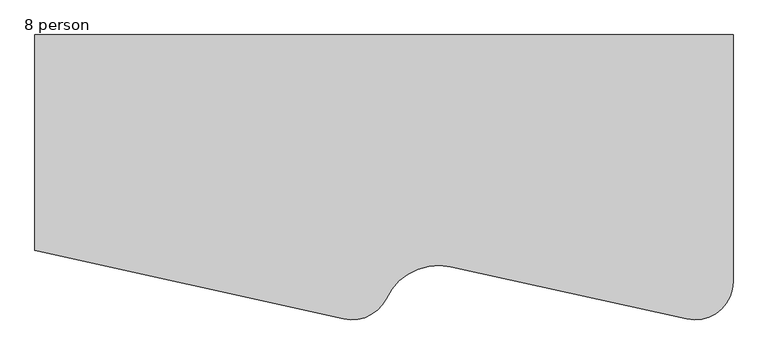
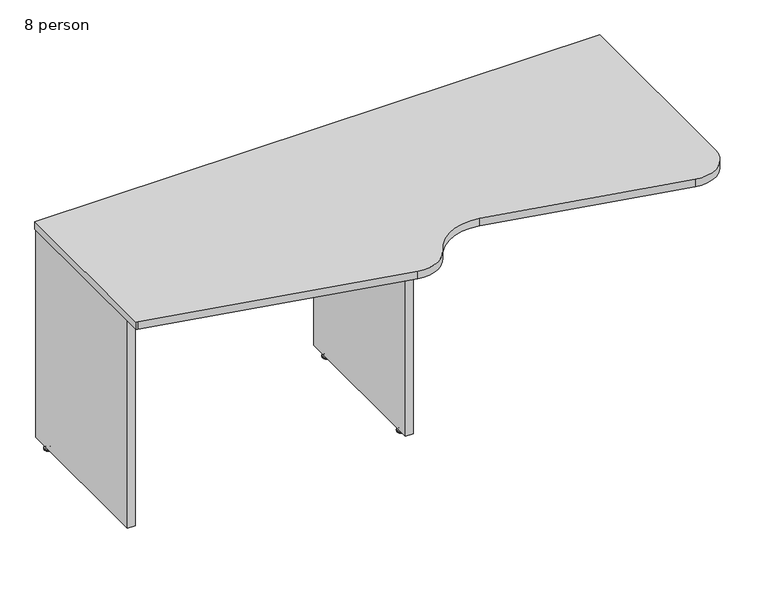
"""IFC4 building model written with IfcOpenShell, lengths in millimetres: furniture geometry, Nova Solutions - Collaboration Table - Keystone_8-11 person : 8 person."""

from ifc_helpers import new_model, si_unit, point, frame, frame_2d, origin, place, context, project, spatial, polyline, circle_curve, ellipse_curve, trimmed, segment, composite_curve, outline, extrude, source, transform, mapped, element, save
from ifc_brep_helpers import plane_surface, cylinder_surface, revolved_surface, advanced_brep


def furniture_8_person_673e4dde(model_context):
    return source(origin(), model_context, "Body", "SolidModel", [
        advanced_brep(
        [(478.2603494, -50.3590625, 11.1125), (484.938, -50.3590625, 11.1125), (491.6156506, -50.3590625, 11.1125), (478.2603494, -50.3590625, 9.525), (491.6156506, -50.3590625, 9.525), (473.0524865, -50.3590625, 4.7748687), (496.8235135, -50.3590625, 4.7748687), (472.1913494, -50.3590625, 3.989419), (497.6846506, -50.3590625, 3.989419), (472.1913494, -50.3590625, 3.175), (497.6846506, -50.3590625, 3.175), (473.0420881, -50.3590625, 0.0), (496.8339119, -50.3590625, 0.0), (484.938, -50.3590625, 0.0)],
        [
            (0, 1),
            (1, 2),
            (2, 0, circle_curve(frame((484.938, -50.3590625, 11.1125), z_axis=(0.0, 0.0, 1.0), x_axis=(1.0, 0.0, 0.0)), 6.6776506)),
            (0, 2, circle_curve(frame((484.938, -50.3590625, 11.1125), z_axis=(0.0, 0.0, 1.0), x_axis=(1.0, 0.0, 0.0)), 6.6776506)),
            (3, 0),
            (2, 4),
            (4, 3, circle_curve(frame((484.938, -50.3590625, 9.525), z_axis=(0.0, 0.0, 1.0), x_axis=(1.0, 0.0, 0.0)), 6.6776506)),
            (3, 4, circle_curve(frame((484.938, -50.3590625, 9.525), z_axis=(0.0, 0.0, 1.0), x_axis=(1.0, 0.0, 0.0)), 6.6776506)),
            (5, 3, circle_curve(frame((472.0059373, -50.3590625, 11.1521822), z_axis=(0.0, -1.0, 0.0), x_axis=(1.0, 0.0, 0.0)), 6.462615)),
            (4, 6, circle_curve(frame((497.8700627, -50.3590625, 11.1521822), z_axis=(0.0, -1.0, 0.0), x_axis=(-1.0, 0.0, 0.0)), 6.462615)),
            (6, 5, circle_curve(frame((484.938, -50.3590625, 4.7748687), z_axis=(0.0, 0.0, 1.0), x_axis=(1.0, 0.0, 0.0)), 11.8855135)),
            (5, 6, circle_curve(frame((484.938, -50.3590625, 4.7748687), z_axis=(0.0, 0.0, 1.0), x_axis=(1.0, 0.0, 0.0)), 11.8855135)),
            (7, 5, circle_curve(frame((473.2255368, -50.3590625, 3.7203591), z_axis=(0.0, 1.0, 0.0), x_axis=(1.0, 0.0, 0.0)), 1.0686145)),
            (6, 8, circle_curve(frame((496.6504632, -50.3590625, 3.7203591), z_axis=(0.0, 1.0, 0.0), x_axis=(-1.0, 0.0, 0.0)), 1.0686145)),
            (8, 7, circle_curve(frame((484.938, -50.3590625, 3.989419), z_axis=(0.0, 0.0, 1.0), x_axis=(1.0, 0.0, 0.0)), 12.7466506)),
            (7, 8, circle_curve(frame((484.938, -50.3590625, 3.989419), z_axis=(0.0, 0.0, 1.0), x_axis=(1.0, 0.0, 0.0)), 12.7466506)),
            (9, 7),
            (8, 10),
            (10, 9, circle_curve(frame((484.938, -50.3590625, 3.175), z_axis=(0.0, 0.0, 1.0), x_axis=(1.0, 0.0, 0.0)), 12.7466506)),
            (9, 10, circle_curve(frame((484.938, -50.3590625, 3.175), z_axis=(0.0, 0.0, 1.0), x_axis=(1.0, 0.0, 0.0)), 12.7466506)),
            (11, 9),
            (10, 12),
            (12, 11, circle_curve(frame((484.938, -50.3590625, 0.0), z_axis=(0.0, 0.0, 1.0), x_axis=(1.0, 0.0, 0.0)), 11.8959119)),
            (11, 12, circle_curve(frame((484.938, -50.3590625, 0.0), z_axis=(0.0, 0.0, 1.0), x_axis=(1.0, 0.0, 0.0)), 11.8959119)),
            (13, 11),
            (12, 13),
        ],
        [
            plane_surface(frame((484.938, -50.3590625, 11.1125), z_axis=(0.0, 0.0, 1.0), x_axis=(1.0, 0.0, 0.0))),
            cylinder_surface(frame((484.938, -50.3590625, 43.2095994), z_axis=(0.0, 0.0, -1.0), x_axis=(1.0, 0.0, 0.0)), 6.6776506),
            revolved_surface(trimmed(ellipse_curve(frame((497.8700627, -50.3590625, 11.1521822), z_axis=(0.0, -1.0, 0.0), x_axis=(-1.0, 0.0, 0.0)), 6.462615, 6.462615), [point((491.6156506, -50.3590625, 9.525))], [point((496.8235135, -50.3590625, 4.7748687))], True, "CARTESIAN"), (484.938, -50.3590625, 43.2095994), (0.0, 0.0, -1.0)),
            revolved_surface(trimmed(ellipse_curve(frame((496.6504632, -50.3590625, 3.7203591), z_axis=(0.0, 1.0, 0.0), x_axis=(-1.0, 0.0, 0.0)), 1.0686145, 1.0686145), [point((496.8235135, -50.3590625, 4.7748687))], [point((497.6846506, -50.3590625, 3.989419))], True, "CARTESIAN"), (484.938, -50.3590625, 43.2095994), (0.0, 0.0, -1.0)),
            cylinder_surface(frame((484.938, -50.3590625, 43.2095994), z_axis=(0.0, 0.0, -1.0), x_axis=(1.0, 0.0, 0.0)), 12.7466506),
            revolved_surface(polyline([(497.6846506, -50.3590625, 3.175), (496.8339119, -50.3590625, 0.0)]), (484.938, -50.3590625, 43.2095994), (0.0, 0.0, -1.0)),
            plane_surface(frame((484.938, -50.3590625, 0.0), z_axis=(0.0, 0.0, -1.0), x_axis=(1.0, 0.0, 0.0))),
        ],
        [
            (0, [[1, 2, 3]]),
            (0, [[-2, -1, 4]]),
            (1, [[5, -3, 6, 7]]),
            (1, [[-6, -4, -5, 8]]),
            (2, [[9, -7, 10, 11]]),
            (2, [[-10, -8, -9, 12]]),
            (3, [[13, -11, 14, 15]]),
            (3, [[-14, -12, -13, 16]]),
            (4, [[17, -15, 18, 19]]),
            (4, [[-18, -16, -17, 20]]),
            (5, [[21, -19, 22, 23]]),
            (5, [[-22, -20, -21, 24]]),
            (6, [[25, -23, 26]]),
            (6, [[-26, -24, -25]]),
        ],
    ),
        extrude(outline(polyline([(472.088, -1.345), (497.788, -1.345), (497.788, -523.345), (472.088, -523.345), (472.088, -1.345)])), frame((0.0, 0.0, 15.6), z_axis=(0.0, 0.0, 1.0), x_axis=(1.0, 0.0, 0.0)), (0.0, 0.0, 1.0), 720.7),
        advanced_brep(
        [(1404.5156506, -474.3309375, 11.1125), (1391.1603494, -474.3309375, 11.1125), (1397.838, -474.3309375, 11.1125), (1404.5156506, -474.3309375, 9.525), (1391.1603494, -474.3309375, 9.525), (1409.7235135, -474.3309375, 4.7748687), (1385.9524865, -474.3309375, 4.7748687), (1410.5846506, -474.3309375, 3.989419), (1385.0913494, -474.3309375, 3.989419), (1410.5846506, -474.3309375, 3.175), (1385.0913494, -474.3309375, 3.175), (1409.7339119, -474.3309375, 0.0), (1385.9420881, -474.3309375, 0.0), (1397.838, -474.3309375, 0.0)],
        [
            (0, 1, circle_curve(frame((1397.838, -474.3309375, 11.1125), z_axis=(0.0, 0.0, 1.0), x_axis=(-1.0, 0.0, 0.0)), 6.6776506)),
            (1, 2),
            (2, 0),
            (1, 0, circle_curve(frame((1397.838, -474.3309375, 11.1125), z_axis=(0.0, 0.0, 1.0), x_axis=(-1.0, 0.0, 0.0)), 6.6776506)),
            (3, 4, circle_curve(frame((1397.838, -474.3309375, 9.525), z_axis=(0.0, 0.0, 1.0), x_axis=(-1.0, 0.0, 0.0)), 6.6776506)),
            (4, 1),
            (0, 3),
            (4, 3, circle_curve(frame((1397.838, -474.3309375, 9.525), z_axis=(0.0, 0.0, 1.0), x_axis=(-1.0, 0.0, 0.0)), 6.6776506)),
            (5, 6, circle_curve(frame((1397.838, -474.3309375, 4.7748687), z_axis=(0.0, 0.0, 1.0), x_axis=(-1.0, 0.0, 0.0)), 11.8855135)),
            (6, 4, circle_curve(frame((1384.9059373, -474.3309375, 11.1521822), z_axis=(0.0, -1.0, 0.0), x_axis=(1.0, 0.0, 0.0)), 6.462615)),
            (3, 5, circle_curve(frame((1410.7700627, -474.3309375, 11.1521822), z_axis=(0.0, -1.0, 0.0), x_axis=(-1.0, 0.0, 0.0)), 6.462615)),
            (6, 5, circle_curve(frame((1397.838, -474.3309375, 4.7748687), z_axis=(0.0, 0.0, 1.0), x_axis=(-1.0, 0.0, 0.0)), 11.8855135)),
            (7, 8, circle_curve(frame((1397.838, -474.3309375, 3.989419), z_axis=(0.0, 0.0, 1.0), x_axis=(-1.0, 0.0, 0.0)), 12.7466506)),
            (8, 6, circle_curve(frame((1386.1255368, -474.3309375, 3.7203591), z_axis=(0.0, 1.0, 0.0), x_axis=(1.0, 0.0, 0.0)), 1.0686145)),
            (5, 7, circle_curve(frame((1409.5504632, -474.3309375, 3.7203591), z_axis=(0.0, 1.0, 0.0), x_axis=(-1.0, 0.0, 0.0)), 1.0686145)),
            (8, 7, circle_curve(frame((1397.838, -474.3309375, 3.989419), z_axis=(0.0, 0.0, 1.0), x_axis=(-1.0, 0.0, 0.0)), 12.7466506)),
            (9, 10, circle_curve(frame((1397.838, -474.3309375, 3.175), z_axis=(0.0, 0.0, 1.0), x_axis=(-1.0, 0.0, 0.0)), 12.7466506)),
            (10, 8),
            (7, 9),
            (10, 9, circle_curve(frame((1397.838, -474.3309375, 3.175), z_axis=(0.0, 0.0, 1.0), x_axis=(-1.0, 0.0, 0.0)), 12.7466506)),
            (11, 12, circle_curve(frame((1397.838, -474.3309375, 0.0), z_axis=(0.0, 0.0, 1.0), x_axis=(-1.0, 0.0, 0.0)), 11.8959119)),
            (12, 10),
            (9, 11),
            (12, 11, circle_curve(frame((1397.838, -474.3309375, 0.0), z_axis=(0.0, 0.0, 1.0), x_axis=(-1.0, 0.0, 0.0)), 11.8959119)),
            (13, 12),
            (11, 13),
        ],
        [
            plane_surface(frame((1397.838, -474.3309375, 11.1125), z_axis=(0.0, 0.0, 1.0), x_axis=(-1.0, 0.0, 0.0))),
            cylinder_surface(frame((1397.838, -474.3309375, 43.2095994), z_axis=(0.0, 0.0, -1.0), x_axis=(-1.0, 0.0, 0.0)), 6.6776506),
            revolved_surface(trimmed(ellipse_curve(frame((1384.9059373, -474.3309375, 11.1521822), z_axis=(0.0, 1.0, 0.0), x_axis=(1.0, 0.0, 0.0)), 6.462615, 6.462615), [point((1391.1603494, -474.3309375, 9.525))], [point((1385.9524865, -474.3309375, 4.7748687))], True, "CARTESIAN"), (1397.838, -474.3309375, 43.2095994), (0.0, 0.0, -1.0)),
            revolved_surface(trimmed(ellipse_curve(frame((1386.1255368, -474.3309375, 3.7203591), z_axis=(0.0, -1.0, 0.0), x_axis=(1.0, 0.0, 0.0)), 1.0686145, 1.0686145), [point((1385.9524865, -474.3309375, 4.7748687))], [point((1385.0913494, -474.3309375, 3.989419))], True, "CARTESIAN"), (1397.838, -474.3309375, 43.2095994), (0.0, 0.0, -1.0)),
            cylinder_surface(frame((1397.838, -474.3309375, 43.2095994), z_axis=(0.0, 0.0, -1.0), x_axis=(-1.0, 0.0, 0.0)), 12.7466506),
            revolved_surface(polyline([(1385.0913494, -474.3309375, 3.175), (1385.9420881, -474.3309375, 0.0)]), (1397.838, -474.3309375, 43.2095994), (0.0, 0.0, -1.0)),
            plane_surface(frame((1397.838, -474.3309375, 0.0), z_axis=(0.0, 0.0, -1.0), x_axis=(-1.0, 0.0, 0.0))),
        ],
        [
            (0, [[1, 2, 3]]),
            (0, [[4, -3, -2]]),
            (1, [[5, 6, -1, 7]]),
            (1, [[8, -7, -4, -6]]),
            (2, [[9, 10, -5, 11]]),
            (2, [[12, -11, -8, -10]]),
            (3, [[13, 14, -9, 15]]),
            (3, [[16, -15, -12, -14]]),
            (4, [[17, 18, -13, 19]]),
            (4, [[20, -19, -16, -18]]),
            (5, [[21, 22, -17, 23]]),
            (5, [[24, -23, -20, -22]]),
            (6, [[25, -21, 26]]),
            (6, [[-26, -24, -25]]),
        ],
    ),
        advanced_brep(
        [(1404.5156506, -50.3590625, 11.1125), (1391.1603494, -50.3590625, 11.1125), (1397.838, -50.3590625, 11.1125), (1404.5156506, -50.3590625, 9.525), (1391.1603494, -50.3590625, 9.525), (1409.7235135, -50.3590625, 4.7748687), (1385.9524865, -50.3590625, 4.7748687), (1410.5846506, -50.3590625, 3.989419), (1385.0913494, -50.3590625, 3.989419), (1410.5846506, -50.3590625, 3.175), (1385.0913494, -50.3590625, 3.175), (1409.7339119, -50.3590625, 0.0), (1385.9420881, -50.3590625, 0.0), (1397.838, -50.3590625, 0.0)],
        [
            (0, 1, circle_curve(frame((1397.838, -50.3590625, 11.1125), z_axis=(0.0, 0.0, 1.0), x_axis=(-1.0, 0.0, 0.0)), 6.6776506)),
            (1, 2),
            (2, 0),
            (1, 0, circle_curve(frame((1397.838, -50.3590625, 11.1125), z_axis=(0.0, 0.0, 1.0), x_axis=(-1.0, 0.0, 0.0)), 6.6776506)),
            (3, 4, circle_curve(frame((1397.838, -50.3590625, 9.525), z_axis=(0.0, 0.0, 1.0), x_axis=(-1.0, 0.0, 0.0)), 6.6776506)),
            (4, 1),
            (0, 3),
            (4, 3, circle_curve(frame((1397.838, -50.3590625, 9.525), z_axis=(0.0, 0.0, 1.0), x_axis=(-1.0, 0.0, 0.0)), 6.6776506)),
            (5, 6, circle_curve(frame((1397.838, -50.3590625, 4.7748687), z_axis=(0.0, 0.0, 1.0), x_axis=(-1.0, 0.0, 0.0)), 11.8855135)),
            (6, 4, circle_curve(frame((1384.9059373, -50.3590625, 11.1521822), z_axis=(0.0, -1.0, 0.0), x_axis=(1.0, 0.0, 0.0)), 6.462615)),
            (3, 5, circle_curve(frame((1410.7700627, -50.3590625, 11.1521822), z_axis=(0.0, -1.0, 0.0), x_axis=(-1.0, 0.0, 0.0)), 6.462615)),
            (6, 5, circle_curve(frame((1397.838, -50.3590625, 4.7748687), z_axis=(0.0, 0.0, 1.0), x_axis=(-1.0, 0.0, 0.0)), 11.8855135)),
            (7, 8, circle_curve(frame((1397.838, -50.3590625, 3.989419), z_axis=(0.0, 0.0, 1.0), x_axis=(-1.0, 0.0, 0.0)), 12.7466506)),
            (8, 6, circle_curve(frame((1386.1255368, -50.3590625, 3.7203591), z_axis=(0.0, 1.0, 0.0), x_axis=(1.0, 0.0, 0.0)), 1.0686145)),
            (5, 7, circle_curve(frame((1409.5504632, -50.3590625, 3.7203591), z_axis=(0.0, 1.0, 0.0), x_axis=(-1.0, 0.0, 0.0)), 1.0686145)),
            (8, 7, circle_curve(frame((1397.838, -50.3590625, 3.989419), z_axis=(0.0, 0.0, 1.0), x_axis=(-1.0, 0.0, 0.0)), 12.7466506)),
            (9, 10, circle_curve(frame((1397.838, -50.3590625, 3.175), z_axis=(0.0, 0.0, 1.0), x_axis=(-1.0, 0.0, 0.0)), 12.7466506)),
            (10, 8),
            (7, 9),
            (10, 9, circle_curve(frame((1397.838, -50.3590625, 3.175), z_axis=(0.0, 0.0, 1.0), x_axis=(-1.0, 0.0, 0.0)), 12.7466506)),
            (11, 12, circle_curve(frame((1397.838, -50.3590625, 0.0), z_axis=(0.0, 0.0, 1.0), x_axis=(-1.0, 0.0, 0.0)), 11.8959119)),
            (12, 10),
            (9, 11),
            (12, 11, circle_curve(frame((1397.838, -50.3590625, 0.0), z_axis=(0.0, 0.0, 1.0), x_axis=(-1.0, 0.0, 0.0)), 11.8959119)),
            (13, 12),
            (11, 13),
        ],
        [
            plane_surface(frame((1397.838, -50.3590625, 11.1125), z_axis=(0.0, 0.0, 1.0), x_axis=(-1.0, 0.0, 0.0))),
            cylinder_surface(frame((1397.838, -50.3590625, 43.2095994), z_axis=(0.0, 0.0, -1.0), x_axis=(-1.0, 0.0, 0.0)), 6.6776506),
            revolved_surface(trimmed(ellipse_curve(frame((1384.9059373, -50.3590625, 11.1521822), z_axis=(0.0, 1.0, 0.0), x_axis=(1.0, 0.0, 0.0)), 6.462615, 6.462615), [point((1391.1603494, -50.3590625, 9.525))], [point((1385.9524865, -50.3590625, 4.7748687))], True, "CARTESIAN"), (1397.838, -50.3590625, 43.2095994), (0.0, 0.0, -1.0)),
            revolved_surface(trimmed(ellipse_curve(frame((1386.1255368, -50.3590625, 3.7203591), z_axis=(0.0, -1.0, 0.0), x_axis=(1.0, 0.0, 0.0)), 1.0686145, 1.0686145), [point((1385.9524865, -50.3590625, 4.7748687))], [point((1385.0913494, -50.3590625, 3.989419))], True, "CARTESIAN"), (1397.838, -50.3590625, 43.2095994), (0.0, 0.0, -1.0)),
            cylinder_surface(frame((1397.838, -50.3590625, 43.2095994), z_axis=(0.0, 0.0, -1.0), x_axis=(-1.0, 0.0, 0.0)), 12.7466506),
            revolved_surface(polyline([(1385.0913494, -50.3590625, 3.175), (1385.9420881, -50.3590625, 0.0)]), (1397.838, -50.3590625, 43.2095994), (0.0, 0.0, -1.0)),
            plane_surface(frame((1397.838, -50.3590625, 0.0), z_axis=(0.0, 0.0, -1.0), x_axis=(-1.0, 0.0, 0.0))),
        ],
        [
            (0, [[1, 2, 3]]),
            (0, [[4, -3, -2]]),
            (1, [[5, 6, -1, 7]]),
            (1, [[8, -7, -4, -6]]),
            (2, [[9, 10, -5, 11]]),
            (2, [[12, -11, -8, -10]]),
            (3, [[13, 14, -9, 15]]),
            (3, [[16, -15, -12, -14]]),
            (4, [[17, 18, -13, 19]]),
            (4, [[20, -19, -16, -18]]),
            (5, [[21, 22, -17, 23]]),
            (5, [[24, -23, -20, -22]]),
            (6, [[25, -21, 26]]),
            (6, [[-26, -24, -25]]),
        ],
    ),
        extrude(outline(polyline([(1410.688, -1.345), (1410.688, -523.345), (1384.988, -523.345), (1384.988, -1.345), (1410.688, -1.345)])), frame((0.0, 0.0, 15.6), z_axis=(0.0, 0.0, 1.0), x_axis=(1.0, 0.0, 0.0)), (0.0, 0.0, 1.0), 720.7),
        extrude(outline(composite_curve([segment(polyline([(2324.888, 0.0), (2324.888, -656.5229386)]), True, "CONTINUOUS"), segment(trimmed(circle_curve(frame_2d((2223.388, -656.5229386)), 101.5), [point((2324.888, -656.5229386))], [point((2201.4193792, -755.6169834))], False, "CARTESIAN"), True, "CONTINUOUS"), segment(polyline([(2201.4193792, -755.6169834), (1574.9164283, -616.724623)]), True, "CONTINUOUS"), segment(trimmed(circle_curve(frame_2d((1541.9310311, -765.5121345)), 152.4), [point((1574.9164283, -616.724623))], [point((1403.2529334, -702.3128843))], True, "CARTESIAN"), True, "CONTINUOUS"), segment(trimmed(circle_curve(frame_2d((1312.6512006, -656.5572725)), 101.5), [point((1403.2529334, -702.3128843))], [point((1290.5552116, -755.6229945))], False, "CARTESIAN"), True, "CONTINUOUS"), segment(polyline([(1290.5552116, -755.6229945), (477.0621764, -574.1784667)]), True, "CONTINUOUS"), segment(trimmed(circle_curve(frame_2d((496.0128548, -474.4632633)), 101.5), [point((477.0621764, -574.1784667))], [point((470.65, -572.7433508))], False, "CARTESIAN"), True, "CONTINUOUS"), segment(polyline([(470.65, -572.7433508), (470.65, 0.0), (2324.888, 0.0)]), True, "CONTINUOUS")], self_intersect=False)), frame((0.0, 0.0, 736.3), z_axis=(0.0, 0.0, 1.0), x_axis=(1.0, 0.0, 0.0)), (0.0, 0.0, 1.0), 25.7),
    ])


if __name__ == "__main__":
    model = new_model("IFC4")
    model_context = context("Model", 3, world=origin())
    ifc_project = project(units=[si_unit("LENGTHUNIT", "METRE", prefix="MILLI")], contexts=[model_context])
    site = spatial("IfcSite", under=ifc_project)
    building = spatial("IfcBuilding", under=site)
    placement = place(None, origin())
    furniture_8_person_shape = furniture_8_person_673e4dde(model_context)
    element("IfcFurniture", 1, ObjectType="Nova Solutions - Collaboration Table - Keystone_8-11 person : 8 person", at=placement, inside=building, context=model_context, shape_type="MappedRepresentation", body=[
        mapped(furniture_8_person_shape, transform((0.0, 0.0, 0.0), x_axis=(1.0, 0.0, 0.0), y_axis=(0.0, 1.0, 0.0), z_axis=(0.0, 0.0, 1.0))),
    ])
    save(model, "model.ifc")
